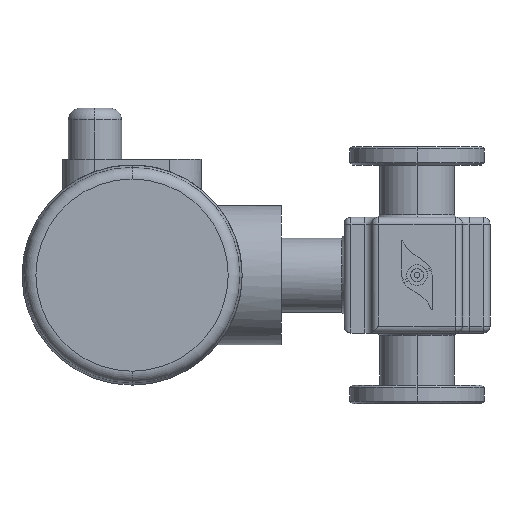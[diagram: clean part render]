
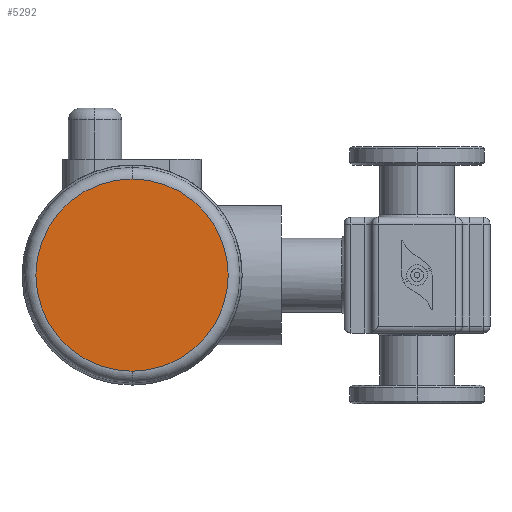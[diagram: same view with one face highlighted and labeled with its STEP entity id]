
A CAD part, left-side view. The second image highlights one B-rep face of the part: STEP entity #5292.
In plain terms, the highlighted planar face has unit normal (-1, 0, 0).
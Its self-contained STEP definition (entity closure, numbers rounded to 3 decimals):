
#270 = DIRECTION ( 'NONE',  ( 0., 0., -1. ) ) ;
#503 = CARTESIAN_POINT ( 'NONE',  ( -62., 123., -116.5 ) ) ;
#517 = DIRECTION ( 'NONE',  ( 0., 0., -1. ) ) ;
#1054 = EDGE_CURVE ( 'NONE', #2925, #3641, #4322, .T. ) ;
#1186 = CARTESIAN_POINT ( 'NONE',  ( -62., 123., -70. ) ) ;
#1231 = AXIS2_PLACEMENT_3D ( 'NONE', #5272, #2800, #270 ) ;
#1604 = DIRECTION ( 'NONE',  ( 0., 0., -1. ) ) ;
#1693 = AXIS2_PLACEMENT_3D ( 'NONE', #1186, #4079, #1604 ) ;
#1888 = CARTESIAN_POINT ( 'NONE',  ( -62., 123., -28.5 ) ) ;
#2025 = ORIENTED_EDGE ( 'NONE', *, *, #4991, .T. ) ;
#2196 = PLANE ( 'NONE',  #2434 ) ;
#2396 = FACE_OUTER_BOUND ( 'NONE', #4111, .T. ) ;
#2434 = AXIS2_PLACEMENT_3D ( 'NONE', #503, #3029, #517 ) ;
#2800 = DIRECTION ( 'NONE',  ( -1., 0., 0. ) ) ;
#2925 = VERTEX_POINT ( 'NONE', #1888 ) ;
#3029 = DIRECTION ( 'NONE',  ( 1., 0., 0. ) ) ;
#3356 = ORIENTED_EDGE ( 'NONE', *, *, #1054, .T. ) ;
#3641 = VERTEX_POINT ( 'NONE', #5264 ) ;
#3676 = CIRCLE ( 'NONE', #1693, 41.5 ) ;
#4079 = DIRECTION ( 'NONE',  ( -1., 0., 0. ) ) ;
#4111 = EDGE_LOOP ( 'NONE', ( #2025, #3356 ) ) ;
#4322 = CIRCLE ( 'NONE', #1231, 41.5 ) ;
#4991 = EDGE_CURVE ( 'NONE', #3641, #2925, #3676, .T. ) ;
#5264 = CARTESIAN_POINT ( 'NONE',  ( -62., 123., -111.5 ) ) ;
#5272 = CARTESIAN_POINT ( 'NONE',  ( -62., 123., -70. ) ) ;
#5292 = ADVANCED_FACE ( 'NONE', ( #2396 ), #2196, .F. ) ;
